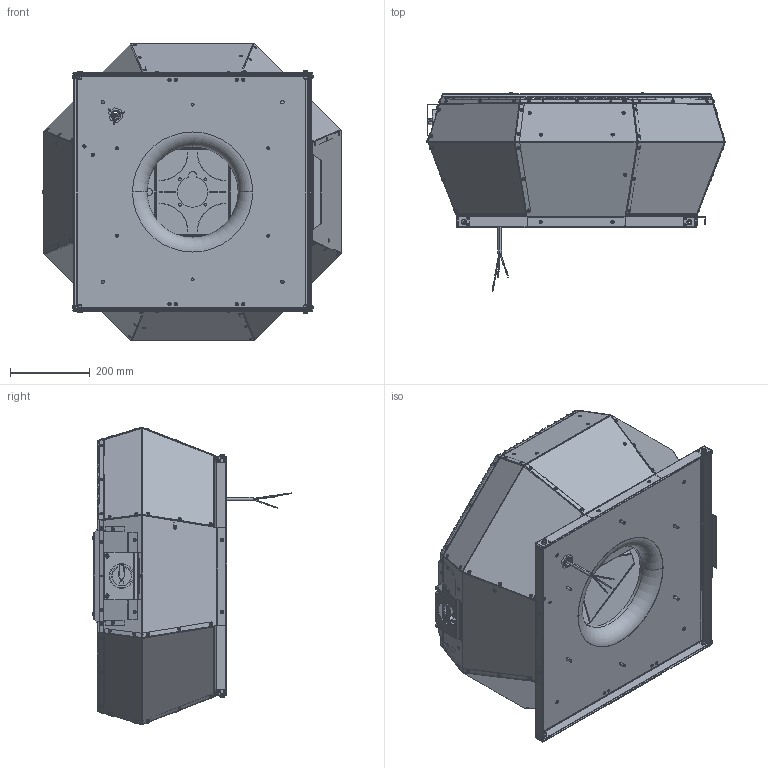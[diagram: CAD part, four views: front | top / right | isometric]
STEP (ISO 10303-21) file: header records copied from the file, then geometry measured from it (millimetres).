
FILE_DESCRIPTION (( 'STEP AP203' ), '1' );
FILE_NAME ('139320-00_DVA355E4P31.STEP', '2017-03-31T06:55:05', ( '' ), ( '' ), 'SwSTEP 2.0', 'SolidWorks 2012', '' );
FILE_SCHEMA (( 'CONFIG_CONTROL_DESIGN' ));
Products named in the file (1): 139320-00_DVA355E4P31
Bounding box: 748.09 x 497.86 x 745.14 mm (x, y, z)
Surface area: 3521849.9 mm2 (no closed solid volume)
Topology: 0 solids, 312 shells, 3362 faces, 11740 edges, 8202 vertices
Faces by surface type: plane 2240, cylinder 605, torus 433, bspline 56, cone 26, sphere 2
Entity records: 130683 total; most frequent: CARTESIAN_POINT 28331, DIRECTION 20859, ORIENTED_EDGE 19093, EDGE_CURVE 11738, VERTEX_POINT 8202, VECTOR 7891, LINE 7891, AXIS2_PLACEMENT_3D 6484
